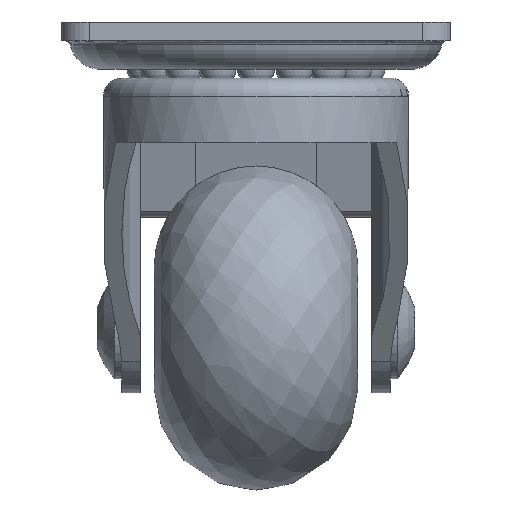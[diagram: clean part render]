
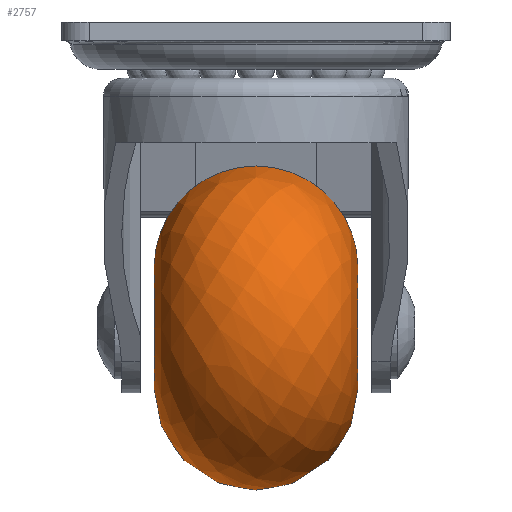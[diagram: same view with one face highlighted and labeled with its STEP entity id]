
A CAD part, front view. The second image highlights one B-rep face of the part: STEP entity #2757.
In plain terms, the highlighted free-form (B-spline) face has degree [2, 2] with [5, 9] control points.
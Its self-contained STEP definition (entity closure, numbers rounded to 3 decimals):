
#136=(
BOUNDED_SURFACE()
B_SPLINE_SURFACE(2,2,((#4230,#4231,#4232,#4233,#4234,#4235,#4236,#4237,
#4238),(#4239,#4240,#4241,#4242,#4243,#4244,#4245,#4246,#4247),(#4248,#4249,
#4250,#4251,#4252,#4253,#4254,#4255,#4256),(#4257,#4258,#4259,#4260,#4261,
#4262,#4263,#4264,#4265),(#4266,#4267,#4268,#4269,#4270,#4271,#4272,#4273,
#4274)),.UNSPECIFIED.,.F.,.T.,.F.)
B_SPLINE_SURFACE_WITH_KNOTS((3,2,3),(3,2,2,2,3),(-1.571,0.,1.571),
(-3.142,-1.571,0.,1.571,3.142),
 .UNSPECIFIED.)
GEOMETRIC_REPRESENTATION_ITEM()
RATIONAL_B_SPLINE_SURFACE(((1.,0.707,1.,0.707,1.,
0.707,1.,0.707,1.),(0.707,0.5,0.707,
0.5,0.707,0.5,0.707,0.5,0.707),(1.,
0.707,1.,0.707,1.,0.707,1.,0.707,
1.),(0.707,0.5,0.707,0.5,0.707,0.5,
0.707,0.5,0.707),(1.,0.707,1.,0.707,
1.,0.707,1.,0.707,1.)))
REPRESENTATION_ITEM('')
SURFACE()
);
#243=FACE_OUTER_BOUND('',#413,.T.);
#413=EDGE_LOOP('',(#1889,#1890,#1891,#1892,#1893,#1894));
#996=CIRCLE('',#2973,6.5);
#997=CIRCLE('',#2974,6.5);
#998=CIRCLE('',#2976,6.5);
#999=CIRCLE('',#2977,6.5);
#1000=CIRCLE('',#2978,11.);
#1173=VERTEX_POINT('',#4221);
#1174=VERTEX_POINT('',#4222);
#1175=VERTEX_POINT('',#4226);
#1176=VERTEX_POINT('',#4227);
#1470=EDGE_CURVE('',#1173,#1174,#996,.T.);
#1471=EDGE_CURVE('',#1174,#1173,#997,.T.);
#1472=EDGE_CURVE('',#1175,#1176,#998,.T.);
#1473=EDGE_CURVE('',#1176,#1175,#999,.T.);
#1474=EDGE_CURVE('',#1174,#1176,#1000,.T.);
#1889=ORIENTED_EDGE('',*,*,#1470,.F.);
#1890=ORIENTED_EDGE('',*,*,#1471,.F.);
#1891=ORIENTED_EDGE('',*,*,#1474,.T.);
#1892=ORIENTED_EDGE('',*,*,#1473,.T.);
#1893=ORIENTED_EDGE('',*,*,#1472,.T.);
#1894=ORIENTED_EDGE('',*,*,#1474,.F.);
#2757=ADVANCED_FACE('',(#243),#136,.F.);
#2973=AXIS2_PLACEMENT_3D('',#4223,#3330,#3331);
#2974=AXIS2_PLACEMENT_3D('',#4224,#3332,#3333);
#2976=AXIS2_PLACEMENT_3D('',#4228,#3336,#3337);
#2977=AXIS2_PLACEMENT_3D('',#4229,#3338,#3339);
#2978=AXIS2_PLACEMENT_3D('',#4275,#3340,#3341);
#3330=DIRECTION('center_axis',(1.,0.,0.));
#3331=DIRECTION('ref_axis',(0.,0.,-1.));
#3332=DIRECTION('center_axis',(1.,0.,0.));
#3333=DIRECTION('ref_axis',(0.,0.,-1.));
#3336=DIRECTION('center_axis',(1.,0.,0.));
#3337=DIRECTION('ref_axis',(0.,0.,-1.));
#3338=DIRECTION('center_axis',(1.,0.,0.));
#3339=DIRECTION('ref_axis',(0.,0.,-1.));
#3340=DIRECTION('center_axis',(0.,-1.,0.));
#3341=DIRECTION('ref_axis',(0.,0.,
1.));
#4221=CARTESIAN_POINT('',(11.,6.5,0.));
#4222=CARTESIAN_POINT('',(11.,0.,6.5));
#4223=CARTESIAN_POINT('Origin',(11.,0.,0.));
#4224=CARTESIAN_POINT('Origin',(11.,0.,0.));
#4226=CARTESIAN_POINT('',(-11.,6.5,0.));
#4227=CARTESIAN_POINT('',(-11.,0.,6.5));
#4228=CARTESIAN_POINT('Origin',(-11.,0.,0.));
#4229=CARTESIAN_POINT('Origin',(-11.,0.,0.));
#4230=CARTESIAN_POINT('Ctrl Pts',(-11.,0.,6.5));
#4231=CARTESIAN_POINT('Ctrl Pts',(-11.,-6.5,6.5));
#4232=CARTESIAN_POINT('Ctrl Pts',(-11.,-6.5,0.));
#4233=CARTESIAN_POINT('Ctrl Pts',(-11.,-6.5,-6.5));
#4234=CARTESIAN_POINT('Ctrl Pts',(-11.,0.,-6.5));
#4235=CARTESIAN_POINT('Ctrl Pts',(-11.,6.5,-6.5));
#4236=CARTESIAN_POINT('Ctrl Pts',(-11.,6.5,0.));
#4237=CARTESIAN_POINT('Ctrl Pts',(-11.,6.5,6.5));
#4238=CARTESIAN_POINT('Ctrl Pts',(-11.,0.,6.5));
#4239=CARTESIAN_POINT('Ctrl Pts',(-11.,0.,17.5));
#4240=CARTESIAN_POINT('Ctrl Pts',(-11.,-17.5,17.5));
#4241=CARTESIAN_POINT('Ctrl Pts',(-11.,-17.5,0.));
#4242=CARTESIAN_POINT('Ctrl Pts',(-11.,-17.5,-17.5));
#4243=CARTESIAN_POINT('Ctrl Pts',(-11.,0.,-17.5));
#4244=CARTESIAN_POINT('Ctrl Pts',(-11.,17.5,-17.5));
#4245=CARTESIAN_POINT('Ctrl Pts',(-11.,17.5,0.));
#4246=CARTESIAN_POINT('Ctrl Pts',(-11.,17.5,17.5));
#4247=CARTESIAN_POINT('Ctrl Pts',(-11.,0.,17.5));
#4248=CARTESIAN_POINT('Ctrl Pts',(0.,0.,
17.5));
#4249=CARTESIAN_POINT('Ctrl Pts',(0.,-17.5,17.5));
#4250=CARTESIAN_POINT('Ctrl Pts',(0.,-17.5,0.));
#4251=CARTESIAN_POINT('Ctrl Pts',(0.,-17.5,-17.5));
#4252=CARTESIAN_POINT('Ctrl Pts',(0.,0.,
-17.5));
#4253=CARTESIAN_POINT('Ctrl Pts',(0.,17.5,-17.5));
#4254=CARTESIAN_POINT('Ctrl Pts',(0.,17.5,0.));
#4255=CARTESIAN_POINT('Ctrl Pts',(0.,17.5,17.5));
#4256=CARTESIAN_POINT('Ctrl Pts',(0.,0.,
17.5));
#4257=CARTESIAN_POINT('Ctrl Pts',(11.,0.,17.5));
#4258=CARTESIAN_POINT('Ctrl Pts',(11.,-17.5,17.5));
#4259=CARTESIAN_POINT('Ctrl Pts',(11.,-17.5,0.));
#4260=CARTESIAN_POINT('Ctrl Pts',(11.,-17.5,-17.5));
#4261=CARTESIAN_POINT('Ctrl Pts',(11.,0.,-17.5));
#4262=CARTESIAN_POINT('Ctrl Pts',(11.,17.5,-17.5));
#4263=CARTESIAN_POINT('Ctrl Pts',(11.,17.5,0.));
#4264=CARTESIAN_POINT('Ctrl Pts',(11.,17.5,17.5));
#4265=CARTESIAN_POINT('Ctrl Pts',(11.,0.,17.5));
#4266=CARTESIAN_POINT('Ctrl Pts',(11.,0.,6.5));
#4267=CARTESIAN_POINT('Ctrl Pts',(11.,-6.5,6.5));
#4268=CARTESIAN_POINT('Ctrl Pts',(11.,-6.5,0.));
#4269=CARTESIAN_POINT('Ctrl Pts',(11.,-6.5,-6.5));
#4270=CARTESIAN_POINT('Ctrl Pts',(11.,0.,-6.5));
#4271=CARTESIAN_POINT('Ctrl Pts',(11.,6.5,-6.5));
#4272=CARTESIAN_POINT('Ctrl Pts',(11.,6.5,0.));
#4273=CARTESIAN_POINT('Ctrl Pts',(11.,6.5,6.5));
#4274=CARTESIAN_POINT('Ctrl Pts',(11.,0.,6.5));
#4275=CARTESIAN_POINT('Origin',(0.,0.,
6.5));
